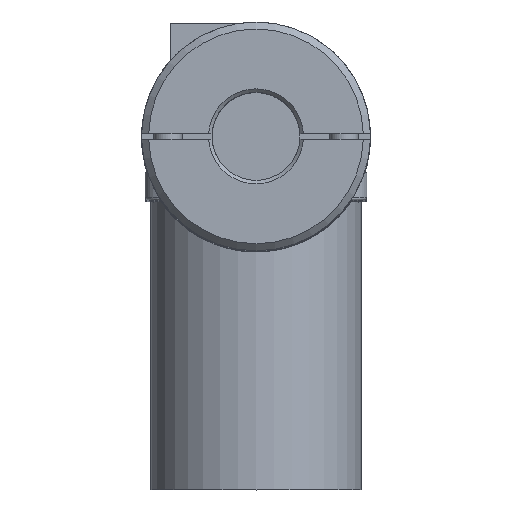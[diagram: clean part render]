
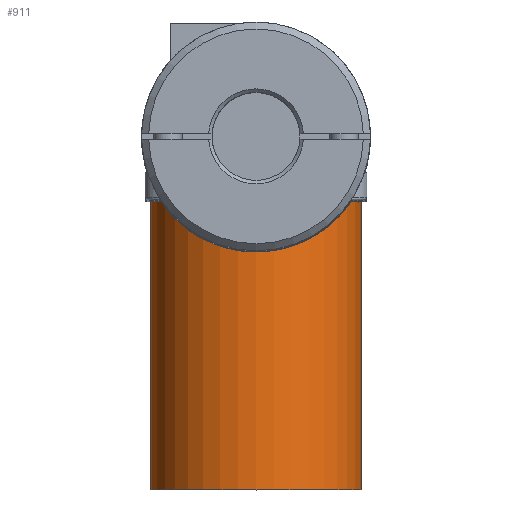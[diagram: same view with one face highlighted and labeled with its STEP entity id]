
A CAD part, top view. The second image highlights one B-rep face of the part: STEP entity #911.
In plain terms, the highlighted cylindrical face has radius 30 mm (diameter 60 mm), a full revolution.
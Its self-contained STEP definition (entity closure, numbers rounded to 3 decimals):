
#911 = ADVANCED_FACE( '', ( #1792, #1793 ), #1794, .T. );
#1792 = FACE_OUTER_BOUND( '', #2412, .T. );
#1793 = FACE_OUTER_BOUND( '', #2413, .T. );
#1794 = CYLINDRICAL_SURFACE( '', #2414, 30. );
#2412 = EDGE_LOOP( '', ( #3753 ) );
#2413 = EDGE_LOOP( '', ( #3754 ) );
#2414 = AXIS2_PLACEMENT_3D( '', #3755, #3756, #3757 );
#3753 = ORIENTED_EDGE( '', *, *, #5139, .T. );
#3754 = ORIENTED_EDGE( '', *, *, #5140, .F. );
#3755 = CARTESIAN_POINT( '', ( 0., -100., 0. ) );
#3756 = DIRECTION( '', ( 0., -1., 0. ) );
#3757 = DIRECTION( '', ( 0., 0., 1. ) );
#5139 = EDGE_CURVE( '', #5979, #5979, #5980, .T. );
#5140 = EDGE_CURVE( '', #5981, #5981, #5982, .T. );
#5979 = VERTEX_POINT( '', #7147 );
#5980 = CIRCLE( '', #7148, 30. );
#5981 = VERTEX_POINT( '', #7149 );
#5982 = CIRCLE( '', #7150, 30. );
#7147 = CARTESIAN_POINT( '', ( 30., -100., 0. ) );
#7148 = AXIS2_PLACEMENT_3D( '', #8073, #8074, #8075 );
#7149 = CARTESIAN_POINT( '', ( 30., 0., 0. ) );
#7150 = AXIS2_PLACEMENT_3D( '', #8076, #8077, #8078 );
#8073 = CARTESIAN_POINT( '', ( 0., -100., 0. ) );
#8074 = DIRECTION( '', ( 0., 1., 0. ) );
#8075 = DIRECTION( '', ( 1., 0., 0. ) );
#8076 = CARTESIAN_POINT( '', ( 0., 0., 0. ) );
#8077 = DIRECTION( '', ( 0., 1., 0. ) );
#8078 = DIRECTION( '', ( 1., 0., 0. ) );
